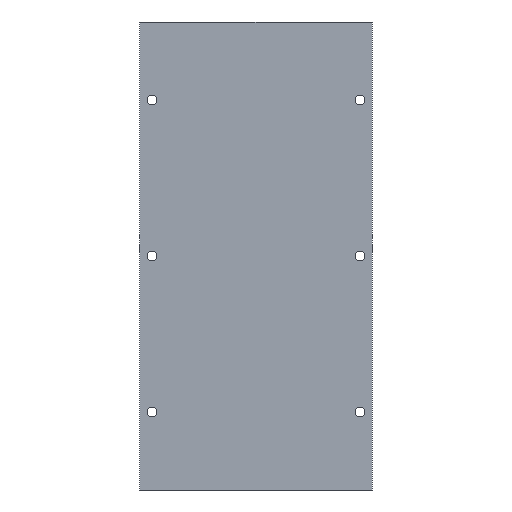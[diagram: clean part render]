
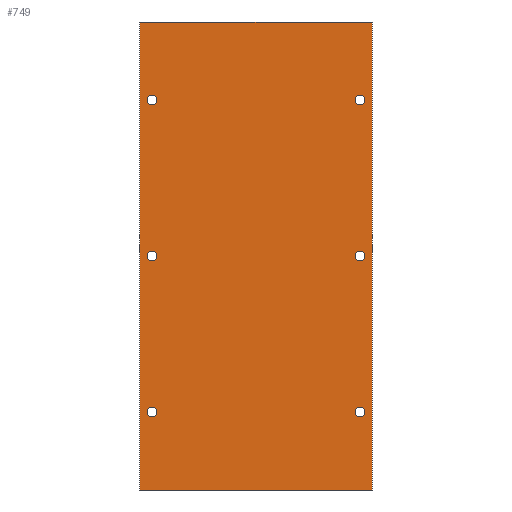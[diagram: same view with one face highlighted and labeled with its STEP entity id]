
A CAD part, front view. The second image highlights one B-rep face of the part: STEP entity #749.
In plain terms, the highlighted planar face has unit normal (0, -1, 0).
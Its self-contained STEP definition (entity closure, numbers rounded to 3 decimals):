
#11 = AXIS2_PLACEMENT_3D ( 'NONE', #29, #1208, #792 ) ;
#23 = VERTEX_POINT ( 'NONE', #390 ) ;
#26 = CARTESIAN_POINT ( 'NONE',  ( 56., -3., 123.35 ) ) ;
#29 = CARTESIAN_POINT ( 'NONE',  ( 56., -3., 210. ) ) ;
#44 = EDGE_CURVE ( 'NONE', #960, #600, #888, .T. ) ;
#47 = ORIENTED_EDGE ( 'NONE', *, *, #769, .T. ) ;
#51 = FACE_BOUND ( 'NONE', #739, .T. ) ;
#61 = ORIENTED_EDGE ( 'NONE', *, *, #1017, .T. ) ;
#63 = CARTESIAN_POINT ( 'NONE',  ( 56., -3., 126. ) ) ;
#67 = LINE ( 'NONE', #607, #1035 ) ;
#71 = DIRECTION ( 'NONE',  ( 0., 1., 0. ) ) ;
#73 = CIRCLE ( 'NONE', #912, 2.65 ) ;
#92 = DIRECTION ( 'NONE',  ( 0., 1., 0. ) ) ;
#94 = VECTOR ( 'NONE', #1060, 1000. ) ;
#102 = EDGE_CURVE ( 'NONE', #830, #901, #532, .T. ) ;
#105 = FACE_BOUND ( 'NONE', #1215, .T. ) ;
#106 = VERTEX_POINT ( 'NONE', #384 ) ;
#139 = AXIS2_PLACEMENT_3D ( 'NONE', #796, #227, #1198 ) ;
#151 = VERTEX_POINT ( 'NONE', #561 ) ;
#163 = DIRECTION ( 'NONE',  ( 0., 1., 0. ) ) ;
#174 = CIRCLE ( 'NONE', #467, 2.65 ) ;
#193 = CARTESIAN_POINT ( 'NONE',  ( 56., -3., 42. ) ) ;
#194 = ORIENTED_EDGE ( 'NONE', *, *, #577, .F. ) ;
#199 = AXIS2_PLACEMENT_3D ( 'NONE', #534, #1005, #1010 ) ;
#210 = AXIS2_PLACEMENT_3D ( 'NONE', #193, #859, #962 ) ;
#212 = EDGE_CURVE ( 'NONE', #434, #486, #476, .T. ) ;
#214 = CARTESIAN_POINT ( 'NONE',  ( -62.5, -3., 252. ) ) ;
#217 = DIRECTION ( 'NONE',  ( 0., 0., 1. ) ) ;
#219 = CARTESIAN_POINT ( 'NONE',  ( 56., -3., 39.35 ) ) ;
#222 = CARTESIAN_POINT ( 'NONE',  ( 56., -3., 44.65 ) ) ;
#224 = CARTESIAN_POINT ( 'NONE',  ( -56., -3., 210. ) ) ;
#227 = DIRECTION ( 'NONE',  ( 0., 1., 0. ) ) ;
#247 = DIRECTION ( 'NONE',  ( 0., 1., 0. ) ) ;
#250 = DIRECTION ( 'NONE',  ( 0., 0., 1. ) ) ;
#260 = DIRECTION ( 'NONE',  ( 0., 0., 1. ) ) ;
#263 = EDGE_CURVE ( 'NONE', #106, #1100, #855, .T. ) ;
#288 = AXIS2_PLACEMENT_3D ( 'NONE', #1024, #247, #250 ) ;
#290 = DIRECTION ( 'NONE',  ( 1., 0., 0. ) ) ;
#291 = LINE ( 'NONE', #385, #94 ) ;
#300 = VECTOR ( 'NONE', #639, 1000. ) ;
#304 = ORIENTED_EDGE ( 'NONE', *, *, #263, .T. ) ;
#311 = EDGE_LOOP ( 'NONE', ( #1109, #304 ) ) ;
#314 = ORIENTED_EDGE ( 'NONE', *, *, #212, .T. ) ;
#320 = DIRECTION ( 'NONE',  ( 0., 1., 0. ) ) ;
#330 = VERTEX_POINT ( 'NONE', #214 ) ;
#339 = CARTESIAN_POINT ( 'NONE',  ( 56., -3., 42. ) ) ;
#347 = ORIENTED_EDGE ( 'NONE', *, *, #102, .T. ) ;
#352 = DIRECTION ( 'NONE',  ( 0., 1., 0. ) ) ;
#376 = ORIENTED_EDGE ( 'NONE', *, *, #1071, .T. ) ;
#384 = CARTESIAN_POINT ( 'NONE',  ( -56., -3., 207.35 ) ) ;
#385 = CARTESIAN_POINT ( 'NONE',  ( 62.5, -3., 252. ) ) ;
#386 = ORIENTED_EDGE ( 'NONE', *, *, #1062, .T. ) ;
#389 = ORIENTED_EDGE ( 'NONE', *, *, #464, .T. ) ;
#390 = CARTESIAN_POINT ( 'NONE',  ( -56., -3., 39.35 ) ) ;
#410 = EDGE_LOOP ( 'NONE', ( #690, #194, #1080, #1011 ) ) ;
#434 = VERTEX_POINT ( 'NONE', #1168 ) ;
#435 = CIRCLE ( 'NONE', #740, 2.65 ) ;
#437 = FACE_BOUND ( 'NONE', #784, .T. ) ;
#446 = VERTEX_POINT ( 'NONE', #1044 ) ;
#454 = CARTESIAN_POINT ( 'NONE',  ( -56., -3., 42. ) ) ;
#456 = DIRECTION ( 'NONE',  ( 0., 0., 1. ) ) ;
#463 = CIRCLE ( 'NONE', #139, 2.65 ) ;
#464 = EDGE_CURVE ( 'NONE', #486, #434, #174, .T. ) ;
#465 = FACE_BOUND ( 'NONE', #311, .T. ) ;
#467 = AXIS2_PLACEMENT_3D ( 'NONE', #556, #71, #942 ) ;
#476 = CIRCLE ( 'NONE', #11, 2.65 ) ;
#486 = VERTEX_POINT ( 'NONE', #1041 ) ;
#489 = CARTESIAN_POINT ( 'NONE',  ( -62.5, -3., 0. ) ) ;
#515 = DIRECTION ( 'NONE',  ( 0., 0., 1. ) ) ;
#523 = DIRECTION ( 'NONE',  ( 0., 1., 0. ) ) ;
#528 = CARTESIAN_POINT ( 'NONE',  ( -62.5, -3., 0. ) ) ;
#532 = CIRCLE ( 'NONE', #210, 2.65 ) ;
#534 = CARTESIAN_POINT ( 'NONE',  ( -56., -3., 126. ) ) ;
#538 = EDGE_LOOP ( 'NONE', ( #47, #1140 ) ) ;
#547 = LINE ( 'NONE', #489, #1064 ) ;
#556 = CARTESIAN_POINT ( 'NONE',  ( 56., -3., 210. ) ) ;
#561 = CARTESIAN_POINT ( 'NONE',  ( 62.5, -3., 252. ) ) ;
#577 = EDGE_CURVE ( 'NONE', #151, #446, #291, .T. ) ;
#600 = VERTEX_POINT ( 'NONE', #1171 ) ;
#607 = CARTESIAN_POINT ( 'NONE',  ( -62.5, -3., 252. ) ) ;
#633 = EDGE_CURVE ( 'NONE', #1098, #446, #547, .T. ) ;
#639 = DIRECTION ( 'NONE',  ( 0., 0., -1. ) ) ;
#663 = AXIS2_PLACEMENT_3D ( 'NONE', #224, #1095, #515 ) ;
#683 = FACE_BOUND ( 'NONE', #538, .T. ) ;
#684 = VERTEX_POINT ( 'NONE', #897 ) ;
#689 = EDGE_CURVE ( 'NONE', #330, #151, #67, .T. ) ;
#690 = ORIENTED_EDGE ( 'NONE', *, *, #633, .T. ) ;
#737 = DIRECTION ( 'NONE',  ( 0., 1., 0. ) ) ;
#739 = EDGE_LOOP ( 'NONE', ( #314, #389 ) ) ;
#740 = AXIS2_PLACEMENT_3D ( 'NONE', #339, #523, #1022 ) ;
#746 = EDGE_CURVE ( 'NONE', #330, #1098, #1107, .T. ) ;
#749 = ADVANCED_FACE ( 'NONE', ( #51, #465, #683, #437, #778, #105, #872 ), #1226, .F. ) ;
#764 = DIRECTION ( 'NONE',  ( 0., 0., 1. ) ) ;
#767 = EDGE_CURVE ( 'NONE', #23, #927, #73, .T. ) ;
#769 = EDGE_CURVE ( 'NONE', #600, #960, #940, .T. ) ;
#778 = FACE_BOUND ( 'NONE', #1153, .T. ) ;
#780 = AXIS2_PLACEMENT_3D ( 'NONE', #1061, #92, #764 ) ;
#782 = CARTESIAN_POINT ( 'NONE',  ( -56., -3., 126. ) ) ;
#784 = EDGE_LOOP ( 'NONE', ( #376, #1230 ) ) ;
#792 = DIRECTION ( 'NONE',  ( 0., 0., 1. ) ) ;
#796 = CARTESIAN_POINT ( 'NONE',  ( -56., -3., 42. ) ) ;
#799 = CARTESIAN_POINT ( 'NONE',  ( -56., -3., 123.35 ) ) ;
#818 = DIRECTION ( 'NONE',  ( 0., 0., 1. ) ) ;
#820 = CIRCLE ( 'NONE', #288, 2.65 ) ;
#830 = VERTEX_POINT ( 'NONE', #219 ) ;
#833 = VERTEX_POINT ( 'NONE', #799 ) ;
#855 = CIRCLE ( 'NONE', #663, 2.65 ) ;
#859 = DIRECTION ( 'NONE',  ( 0., 1., 0. ) ) ;
#872 = FACE_OUTER_BOUND ( 'NONE', #410, .T. ) ;
#888 = CIRCLE ( 'NONE', #780, 2.65 ) ;
#897 = CARTESIAN_POINT ( 'NONE',  ( -56., -3., 128.65 ) ) ;
#901 = VERTEX_POINT ( 'NONE', #222 ) ;
#912 = AXIS2_PLACEMENT_3D ( 'NONE', #454, #163, #456 ) ;
#921 = ORIENTED_EDGE ( 'NONE', *, *, #767, .T. ) ;
#927 = VERTEX_POINT ( 'NONE', #991 ) ;
#932 = CARTESIAN_POINT ( 'NONE',  ( -62.5, -3., 252. ) ) ;
#940 = CIRCLE ( 'NONE', #980, 2.65 ) ;
#942 = DIRECTION ( 'NONE',  ( 0., 0., 1. ) ) ;
#960 = VERTEX_POINT ( 'NONE', #26 ) ;
#962 = DIRECTION ( 'NONE',  ( 0., 0., 1. ) ) ;
#980 = AXIS2_PLACEMENT_3D ( 'NONE', #63, #737, #260 ) ;
#991 = CARTESIAN_POINT ( 'NONE',  ( -56., -3., 44.65 ) ) ;
#1005 = DIRECTION ( 'NONE',  ( 0., 1., 0. ) ) ;
#1007 = DIRECTION ( 'NONE',  ( 1., 0., 0. ) ) ;
#1010 = DIRECTION ( 'NONE',  ( 0., 0., 1. ) ) ;
#1011 = ORIENTED_EDGE ( 'NONE', *, *, #746, .T. ) ;
#1017 = EDGE_CURVE ( 'NONE', #927, #23, #463, .T. ) ;
#1022 = DIRECTION ( 'NONE',  ( 0., 0., 1. ) ) ;
#1024 = CARTESIAN_POINT ( 'NONE',  ( -56., -3., 210. ) ) ;
#1035 = VECTOR ( 'NONE', #1007, 1000. ) ;
#1041 = CARTESIAN_POINT ( 'NONE',  ( 56., -3., 207.35 ) ) ;
#1044 = CARTESIAN_POINT ( 'NONE',  ( 62.5, -3., 0. ) ) ;
#1047 = AXIS2_PLACEMENT_3D ( 'NONE', #1114, #352, #818 ) ;
#1060 = DIRECTION ( 'NONE',  ( 0., 0., -1. ) ) ;
#1061 = CARTESIAN_POINT ( 'NONE',  ( 56., -3., 126. ) ) ;
#1062 = EDGE_CURVE ( 'NONE', #901, #830, #435, .T. ) ;
#1064 = VECTOR ( 'NONE', #290, 1000. ) ;
#1071 = EDGE_CURVE ( 'NONE', #684, #833, #1152, .T. ) ;
#1080 = ORIENTED_EDGE ( 'NONE', *, *, #689, .F. ) ;
#1095 = DIRECTION ( 'NONE',  ( 0., 1., 0. ) ) ;
#1098 = VERTEX_POINT ( 'NONE', #528 ) ;
#1100 = VERTEX_POINT ( 'NONE', #1189 ) ;
#1107 = LINE ( 'NONE', #932, #300 ) ;
#1109 = ORIENTED_EDGE ( 'NONE', *, *, #1170, .T. ) ;
#1114 = CARTESIAN_POINT ( 'NONE',  ( -62.5, -3., 252. ) ) ;
#1137 = AXIS2_PLACEMENT_3D ( 'NONE', #782, #320, #217 ) ;
#1140 = ORIENTED_EDGE ( 'NONE', *, *, #44, .T. ) ;
#1143 = EDGE_CURVE ( 'NONE', #833, #684, #1219, .T. ) ;
#1152 = CIRCLE ( 'NONE', #199, 2.65 ) ;
#1153 = EDGE_LOOP ( 'NONE', ( #386, #347 ) ) ;
#1168 = CARTESIAN_POINT ( 'NONE',  ( 56., -3., 212.65 ) ) ;
#1170 = EDGE_CURVE ( 'NONE', #1100, #106, #820, .T. ) ;
#1171 = CARTESIAN_POINT ( 'NONE',  ( 56., -3., 128.65 ) ) ;
#1189 = CARTESIAN_POINT ( 'NONE',  ( -56., -3., 212.65 ) ) ;
#1198 = DIRECTION ( 'NONE',  ( 0., 0., 1. ) ) ;
#1208 = DIRECTION ( 'NONE',  ( 0., 1., 0. ) ) ;
#1215 = EDGE_LOOP ( 'NONE', ( #61, #921 ) ) ;
#1219 = CIRCLE ( 'NONE', #1137, 2.65 ) ;
#1226 = PLANE ( 'NONE',  #1047 ) ;
#1230 = ORIENTED_EDGE ( 'NONE', *, *, #1143, .T. ) ;
